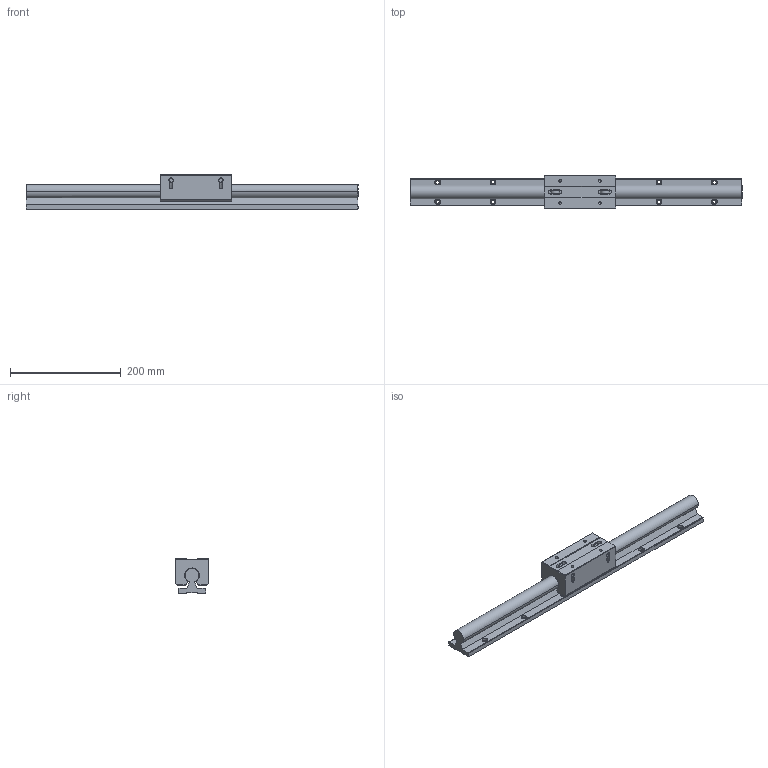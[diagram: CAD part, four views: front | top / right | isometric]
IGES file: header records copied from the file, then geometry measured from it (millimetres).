
Global section: file name: No Iges File Name specified; native system: AutoDesk Inventor R10; preprocessor: AutoDesk Inventor Iges Exporter R10; author: No Author specified; organization: No Organization specified; date: 20101222.161054; units: millimetre
Bounding box: 600 x 60 x 62 mm (x, y, z)
Surface area: 167577.3 mm2 (no closed solid volume)
Topology: 0 solids, 0 shells, 354 faces, 2570 edges, 2550 vertices
Faces by surface type: bspline 354
